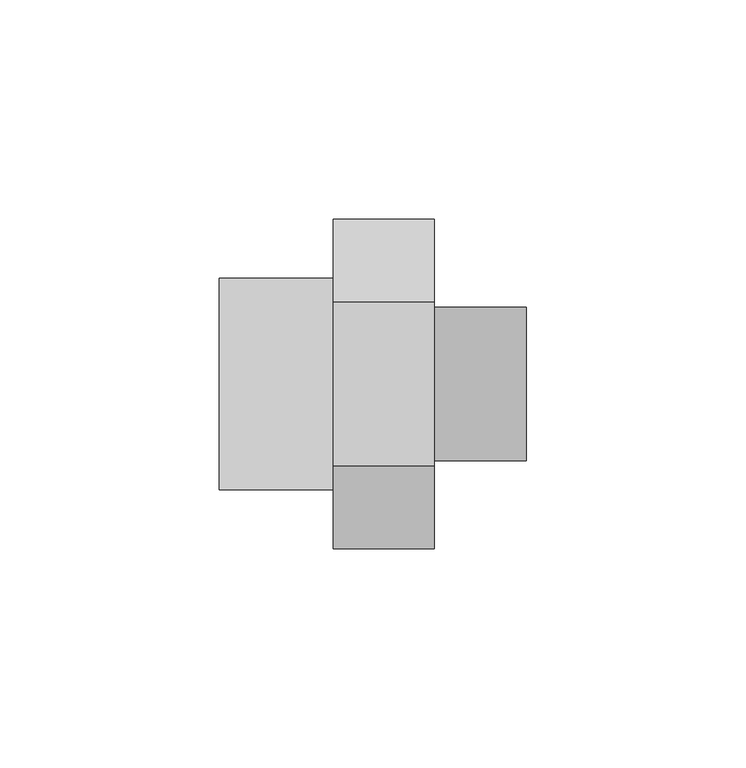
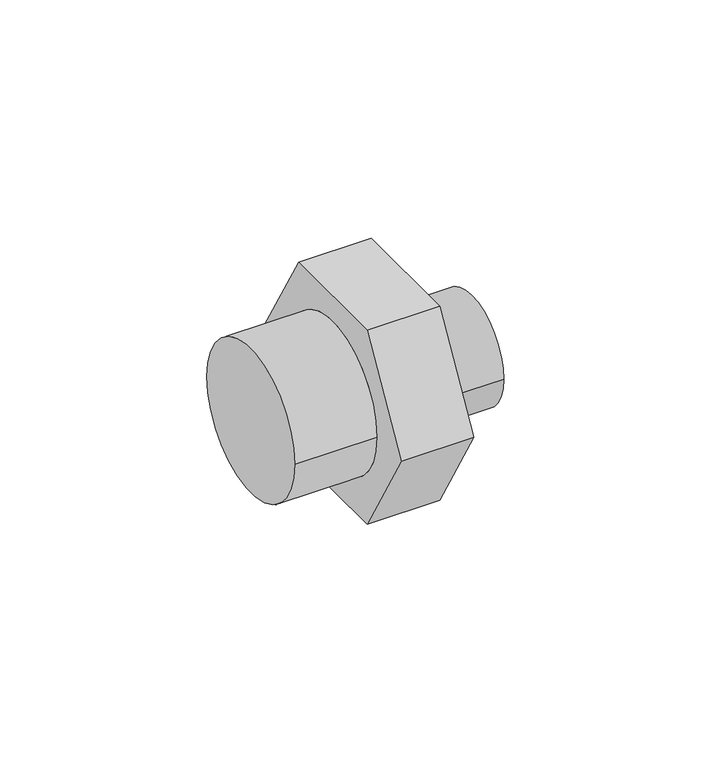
"""IFC4 building model written with IfcOpenShell, lengths in millimetres: pipe fitting geometry, 01011197 : Casquilho Duplo Redução."""

from ifc_helpers import new_model, si_unit, frame, origin, place, context, project, spatial, circle_curve, source, transform, mapped, element, save
from ifc_brep_helpers import plane_surface, cylinder_surface, advanced_brep


def pipe_fitting_a9c8d222(model_context):
    return source(origin(), model_context, "Body", "AdvancedBrep", [
        advanced_brep(
        [(49.0, -18.7638837, 32.5), (49.0, -37.5277675, 0.0), (49.0, -18.7638837, -32.5), (49.0, 18.7638837, -32.5), (49.0, 37.5277675, 0.0), (49.0, 18.7638837, 32.5), (49.0, -17.4625, 0.0), (49.0, 17.4625, 0.0), (26.0, -18.7638837, 32.5), (26.0, 18.7638837, 32.5), (26.0, 37.5277675, 0.0), (26.0, 18.7638837, -32.5), (26.0, -18.7638837, -32.5), (26.0, -37.5277675, 0.0), (26.0, 24.13, 0.0), (26.0, -24.13, 0.0), (70.0, -17.4625, 0.0), (70.0, 17.4625, 0.0), (0.0, 24.13, 0.0), (0.0, -24.13, 0.0)],
        [
            (0, 1),
            (1, 2),
            (2, 3),
            (3, 4),
            (4, 5),
            (5, 0),
            (6, 7, circle_curve(frame((49.0, 0.0, 0.0), z_axis=(-1.0, 0.0, 0.0), x_axis=(0.0, 1.0, 0.0)), 17.4625)),
            (7, 6, circle_curve(frame((49.0, 0.0, 0.0), z_axis=(-1.0, 0.0, 0.0), x_axis=(0.0, 1.0, 0.0)), 17.4625)),
            (8, 9),
            (9, 10),
            (10, 11),
            (11, 12),
            (12, 13),
            (13, 8),
            (14, 15, circle_curve(frame((26.0, 0.0, 0.0), z_axis=(1.0, 0.0, 0.0), x_axis=(0.0, -1.0, 0.0)), 24.13)),
            (15, 14, circle_curve(frame((26.0, 0.0, 0.0), z_axis=(1.0, 0.0, 0.0), x_axis=(0.0, -1.0, 0.0)), 24.13)),
            (0, 8),
            (13, 1),
            (12, 2),
            (11, 3),
            (10, 4),
            (9, 5),
            (16, 17, circle_curve(frame((70.0, 0.0, 0.0), z_axis=(1.0, 0.0, 0.0), x_axis=(0.0, 1.0, 0.0)), 17.4625)),
            (17, 16, circle_curve(frame((70.0, 0.0, 0.0), z_axis=(1.0, 0.0, 0.0), x_axis=(0.0, 1.0, 0.0)), 17.4625)),
            (17, 7),
            (6, 16),
            (18, 19, circle_curve(frame((0.0, 0.0, 0.0), z_axis=(-1.0, 0.0, 0.0), x_axis=(0.0, -1.0, 0.0)), 24.13)),
            (19, 18, circle_curve(frame((0.0, 0.0, 0.0), z_axis=(-1.0, 0.0, 0.0), x_axis=(0.0, -1.0, 0.0)), 24.13)),
            (19, 15),
            (14, 18),
        ],
        [
            plane_surface(frame((49.0, -18.7638837, 32.5), z_axis=(1.0000000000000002, 0.0, 0.0), x_axis=(0.0, -0.5000000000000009, -0.8660254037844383))),
            plane_surface(frame((26.0, -18.7638837, 32.5), z_axis=(-1.0000000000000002, 0.0, 0.0), x_axis=(0.0, 0.5000000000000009, 0.8660254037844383))),
            plane_surface(frame((49.0, -18.7638837, 32.5), z_axis=(0.0, -0.8660254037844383, 0.5000000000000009), x_axis=(-1.0, 0.0, 0.0))),
            plane_surface(frame((49.0, -37.5277675, 0.0), z_axis=(0.0, -0.8660254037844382, -0.5000000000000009), x_axis=(-1.0, 0.0, 0.0))),
            plane_surface(frame((49.0, -18.7638837, -32.5), z_axis=(0.0, 0.0, -1.0), x_axis=(-1.0, 0.0, 0.0))),
            plane_surface(frame((49.0, 18.7638837, -32.5), z_axis=(0.0, 0.8660254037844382, -0.5000000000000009), x_axis=(-1.0, 0.0, 0.0))),
            plane_surface(frame((49.0, 37.5277675, 0.0), z_axis=(0.0, 0.8660254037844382, 0.500000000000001), x_axis=(-1.0, 0.0, 0.0))),
            plane_surface(frame((49.0, 18.7638837, 32.5), z_axis=(0.0, 0.0, 1.0), x_axis=(-1.0, 0.0, 0.0))),
            plane_surface(frame((70.0, 0.0, 0.0), z_axis=(1.0, 0.0, 0.0), x_axis=(0.0, 0.0, 1.0))),
            cylinder_surface(frame((49.0, 0.0, 0.0), z_axis=(-1.0, 0.0, 0.0), x_axis=(0.0, 1.0, 0.0)), 17.4625),
            plane_surface(frame((0.0, 0.0, 0.0), z_axis=(-1.0, 0.0, 0.0), x_axis=(0.0, 0.0, 1.0))),
            cylinder_surface(frame((26.0, 0.0, 0.0), z_axis=(1.0, 0.0, 0.0), x_axis=(0.0, -1.0, 0.0)), 24.13),
        ],
        [
            (0, [[1, 2, 3, 4, 5, 6], [7, 8]]),
            (1, [[9, 10, 11, 12, 13, 14], [15, 16]]),
            (2, [[-1, 17, -14, 18]]),
            (3, [[-2, -18, -13, 19]]),
            (4, [[-3, -19, -12, 20]]),
            (5, [[-4, -20, -11, 21]]),
            (6, [[-5, -21, -10, 22]]),
            (7, [[-6, -22, -9, -17]]),
            (8, [[23, 24]]),
            (9, [[-24, 25, -7, 26]]),
            (9, [[-23, -26, -8, -25]]),
            (10, [[27, 28]]),
            (11, [[-28, 29, -15, 30]]),
            (11, [[-27, -30, -16, -29]]),
        ],
    ),
    ])


if __name__ == "__main__":
    model = new_model("IFC4")
    model_context = context("Model", 3, world=origin())
    ifc_project = project(units=[si_unit("LENGTHUNIT", "METRE", prefix="MILLI")], contexts=[model_context])
    site = spatial("IfcSite", under=ifc_project)
    building = spatial("IfcBuilding", under=site)
    placement = place(None, origin())
    pipe_fitting_shape = pipe_fitting_a9c8d222(model_context)
    element("IfcPipeFitting", 1, ObjectType="01011197 : Casquilho Duplo Redução", at=placement, inside=building, context=model_context, shape_type="MappedRepresentation", body=[
        mapped(pipe_fitting_shape, transform((0.0, 0.0, 0.0), x_axis=(1.0, 0.0, 0.0), y_axis=(0.0, 1.0, 0.0), z_axis=(0.0, 0.0, 1.0))),
    ])
    save(model, "model.ifc")
